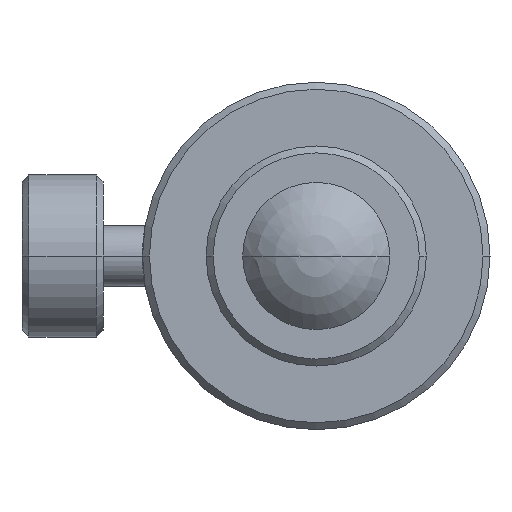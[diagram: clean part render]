
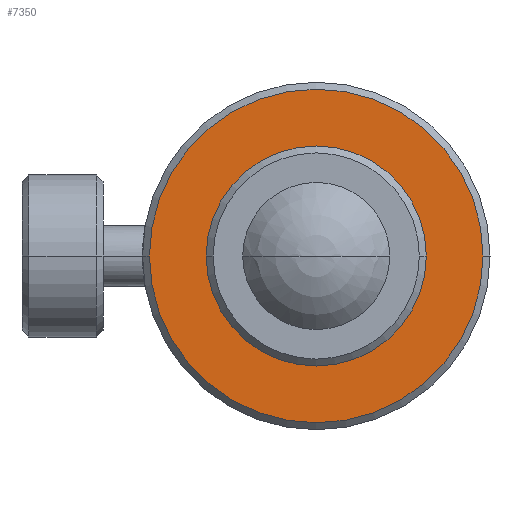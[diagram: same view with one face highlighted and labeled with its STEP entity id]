
A CAD part, left-side view. The second image highlights one B-rep face of the part: STEP entity #7350.
In plain terms, the highlighted planar face has unit normal (-1, 0, 0).
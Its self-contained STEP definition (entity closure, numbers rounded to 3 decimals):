
#6860=CARTESIAN_POINT('',(-44.75,112.075,0.));
#6870=VERTEX_POINT('',#6860);
#6960=CARTESIAN_POINT('',(-44.75,126.475,0.));
#6970=VERTEX_POINT('',#6960);
#7000=CARTESIAN_POINT('',(-44.75,119.275,0.));
#7010=DIRECTION('',(-1.,0.,-0.));
#7020=DIRECTION('',(0.,1.,0.));
#7030=AXIS2_PLACEMENT_3D('',#7000,#7010,#7020);
#7040=CIRCLE('',#7030,7.2);
#7050=EDGE_CURVE('',#6970,#6870,#7040,.T.);
#7100=CARTESIAN_POINT('',(-44.75,125.225,0.));
#7110=DIRECTION('',(-1.,0.,0.));
#7120=DIRECTION('',(0.,1.,0.));
#7130=AXIS2_PLACEMENT_3D('',#7100,#7110,#7120);
#7140=PLANE('',#7130);
#7150=EDGE_CURVE('',#6870,#6970,#7040,.T.);
#7160=ORIENTED_EDGE('',*,*,#7150,.T.);
#7170=ORIENTED_EDGE('',*,*,#7050,.T.);
#7180=EDGE_LOOP('',(#7170,#7160));
#7190=FACE_OUTER_BOUND('',#7180,.T.);
#7200=CARTESIAN_POINT('',(-44.75,119.275,0.));
#7210=DIRECTION('',(1.,0.,0.));
#7220=DIRECTION('',(0.,-1.,0.));
#7230=AXIS2_PLACEMENT_3D('',#7200,#7210,#7220);
#7240=CIRCLE('',#7230,4.7);
#7250=CARTESIAN_POINT('',(-44.75,114.575,0.));
#7260=VERTEX_POINT('',#7250);
#7270=CARTESIAN_POINT('',(-44.75,123.975,0.));
#7280=VERTEX_POINT('',#7270);
#7290=EDGE_CURVE('',#7260,#7280,#7240,.T.);
#7300=ORIENTED_EDGE('',*,*,#7290,.T.);
#7310=EDGE_CURVE('',#7280,#7260,#7240,.T.);
#7320=ORIENTED_EDGE('',*,*,#7310,.T.);
#7330=EDGE_LOOP('',(#7320,#7300));
#7340=FACE_BOUND('',#7330,.T.);
#7350=ADVANCED_FACE('',(#7190,#7340),#7140,.T.);
